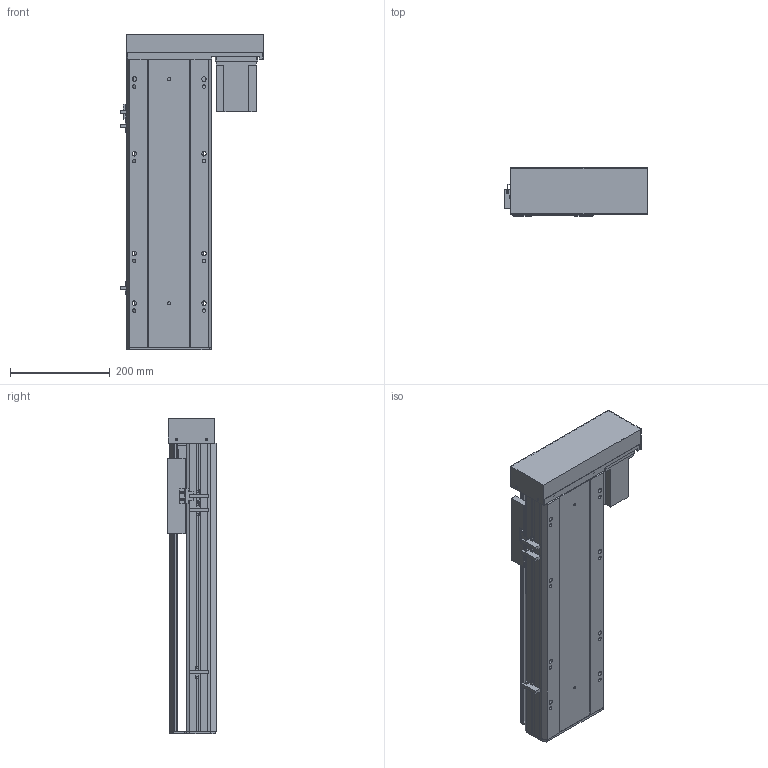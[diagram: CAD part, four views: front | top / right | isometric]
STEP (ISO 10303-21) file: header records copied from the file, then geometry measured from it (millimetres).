
FILE_DESCRIPTION (( 'STEP AP203' ), '1' );
FILE_NAME ('Y170-D10-S350-BR-P750W.STEP', '2020-01-21T12:07:04', ( '微软用户' ), ( '微软中国' ), 'SwSTEP 2.0', 'SolidWorks 2017', '' );
FILE_SCHEMA (( 'CONFIG_CONTROL_DESIGN' ));
Length unit declared in the file: millimetre
Products named in the file (12): Y-BL.BR-俋欶; Y--BL蟀諉啣-陔遴-; Y170耜裔--準---; YD-Y100-135-新外置传感挡片(通用）; 170--掛极-BR; Y100-135俋离換覜ん; Y170-BL-P750W楊擘啣; Y170-D10-S350-BR-P750W; 侂狟750W; EGH20賑輸_蕼偞; Y雄赽釱-耜蚾; Y170-陔遴奻裔-BR
Assembly tree (14 placements, depth 2):
  Y170-D10-S350-BR-P750W
    Y170耜裔--準---
    170--掛极-BR
    Y170-BL-P750W楊擘啣
    侂狟750W
    EGH20賑輸_蕼偞  x2
    Y雄赽釱-耜蚾
    Y170-陔遴奻裔-BR
    Y-BL.BR-俋欶
    Y--BL蟀諉啣-陔遴-
    YD-Y100-135-新外置传感挡片(通用）
    Y100-135俋离換覜ん  x3
Bounding box: 289 x 97 x 633.5 mm (x, y, z)
Volume: 3664137.3 mm3; surface area: 1200943.1 mm2
Topology: 14 solids, 14 shells, 897 faces, 2498 edges, 1648 vertices
Faces by surface type: plane 443, cylinder 438, cone 16
Entity records: 28010 total; most frequent: CARTESIAN_POINT 4846, DIRECTION 4668, ORIENTED_EDGE 4492, EDGE_CURVE 2246, AXIS2_PLACEMENT_3D 1650, VERTEX_POINT 1492, VECTOR 1368, LINE 1368
